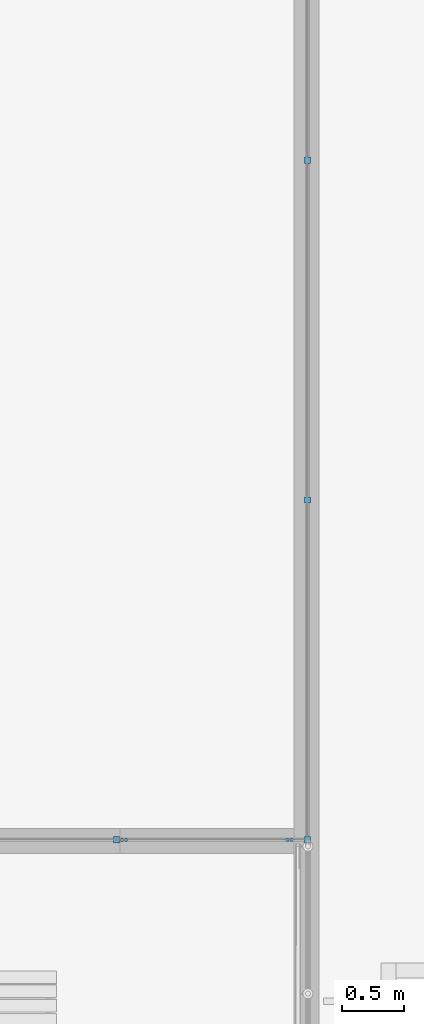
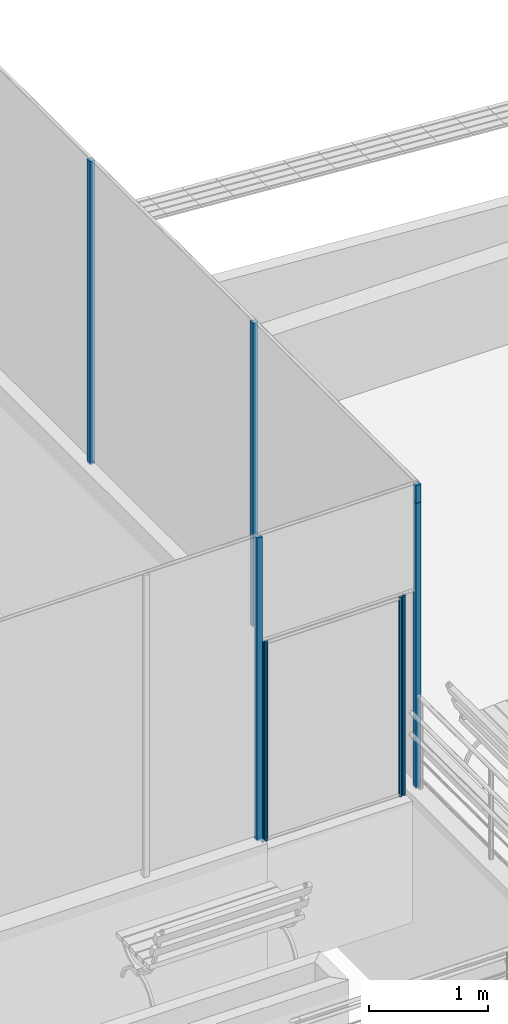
# One storey, part 7 of 237: 9 columns.
"""IFC2X3 building model written with IfcOpenShell, lengths in millimetres."""

import ifcopenshell
import ifcopenshell.guid

model = None  # the IFC model being written
_history = None  # IfcOwnerHistory: only IFC2X3 demands one
_inside = {}  # id of a spatial element -> (the spatial element, [elements in it])
_under = {}  # id of a project, library or spatial element -> (it, [spatial elements below it])
_declared = {}  # id of a project -> (the project, [libraries it declares])
_typed = {}  # id of a type object -> (the type object, [elements of that type])
_made_of = {}  # id of a material, layer set ... -> (it, [elements and type objects made of it])


def new_model(schema):
    """Start an empty IFC model of exactly this schema.

    Asked for "IFC4X3", IfcOpenShell would pick the latest addendum, in which some entities
    have other attributes; the version numbers below select the first issue.
    IFC2X3 requires an IfcOwnerHistory on every rooted entity: one is made here for all.
    """
    global model, _history
    if schema == "IFC4X3":
        model = ifcopenshell.file(schema_version=(4, 3, 0, 0))
    else:
        model = ifcopenshell.file(schema=schema)
    _inside.clear()
    _under.clear()
    _declared.clear()
    _typed.clear()
    _made_of.clear()
    _history = None
    if model.schema == "IFC2X3":
        org = make("IfcOrganization", Name="unknown")
        user = make(
            "IfcPersonAndOrganization",
            ThePerson=make("IfcPerson", FamilyName="unknown"),
            TheOrganization=org,
        )
        app = make(
            "IfcApplication",
            ApplicationDeveloper=org,
            Version="unknown",
            ApplicationFullName="unknown",
            ApplicationIdentifier="unknown",
        )
        _history = make(
            "IfcOwnerHistory",
            OwningUser=user,
            OwningApplication=app,
            ChangeAction="ADDED",
            CreationDate=0,
        )
    return model


def make(cls, **values):
    """One entity of the class cls with the attributes given. An attribute that is None is left unset."""
    return model.create_entity(
        cls, **{name: value for name, value in values.items() if value is not None}
    )


def entity(cls, *values):
    """Any entity or typed value of the class cls, its attributes in the order of the schema. None: left unset."""
    e = model.create_entity(cls)
    for i, value in enumerate(values):
        if value is not None:
            e[i] = value
    return e


def rooted(cls, **values):
    """An entity with a GlobalId (a new one), such as an element, a storey or a relation."""
    return make(cls, GlobalId=ifcopenshell.guid.new(), OwnerHistory=_history, **values)


def si_unit(unit_type, name, prefix=None):
    """IfcSIUnit, for example si_unit("LENGTHUNIT", "METRE", prefix="MILLI")."""
    return make("IfcSIUnit", UnitType=unit_type, Prefix=prefix, Name=name)


def converted_unit(unit_type, name, factor, base, dimensions=None, offset=None):
    """IfcConversionBasedUnit, such as the inch: factor (a typed value) times the base unit."""
    return make(
        "IfcConversionBasedUnit"
        if offset is None
        else "IfcConversionBasedUnitWithOffset",
        ConversionOffset=offset,
        Dimensions=None
        if dimensions is None
        else entity("IfcDimensionalExponents", *dimensions),
        UnitType=unit_type,
        Name=name,
        ConversionFactor=make(
            "IfcMeasureWithUnit", ValueComponent=factor, UnitComponent=base
        ),
    )


def derived_unit(unit_type, elements):
    """IfcDerivedUnit: a product of units, each with its exponent."""
    return make(
        "IfcDerivedUnit",
        Elements=[
            make("IfcDerivedUnitElement", Unit=unit, Exponent=power)
            for unit, power in elements
        ],
        UnitType=unit_type,
    )


def money_unit(currency):
    """IfcMonetaryUnit."""
    return make("IfcMonetaryUnit", Currency=currency)


def assignment(units):
    """IfcUnitAssignment: the units of a project."""
    return None if units is None else make("IfcUnitAssignment", Units=units)


def point(xyz):
    """IfcCartesianPoint."""
    return None if xyz is None else make("IfcCartesianPoint", Coordinates=xyz)


def direction(xyz):
    """IfcDirection."""
    return None if xyz is None else make("IfcDirection", DirectionRatios=xyz)


def frame(location, z_axis=None, x_axis=None):
    """IfcAxis2Placement3D, a coordinate frame: its origin and axes. An axis left out is left unset."""
    return make(
        "IfcAxis2Placement3D",
        Location=point(location),
        Axis=direction(z_axis),
        RefDirection=direction(x_axis),
    )


def frame_2d(location, x_axis=None):
    """IfcAxis2Placement2D, a coordinate frame in the plane: its origin and x axis."""
    return make(
        "IfcAxis2Placement2D", Location=point(location), RefDirection=direction(x_axis)
    )


def origin_with_axes():
    """The frame at (0, 0, 0) with the z axis (0, 0, 1) and the x axis (1, 0, 0) written out."""
    return frame((0.0, 0.0, 0.0), z_axis=(0.0, 0.0, 1.0), x_axis=(1.0, 0.0, 0.0))


def origin_2d_with_axis():
    """The frame at (0, 0) in the plane with the x axis (1, 0) written out."""
    return frame_2d((0.0, 0.0), x_axis=(1.0, 0.0))


def place(relative_to, where):
    """IfcLocalPlacement: puts the frame where relative to a parent placement (None: the world)."""
    return make(
        "IfcLocalPlacement", PlacementRelTo=relative_to, RelativePlacement=where
    )


def context(
    kind, dimensions, precision=None, world=None, true_north=None, identifier=None
):
    """IfcGeometricRepresentationContext, for example the 3D "Model" context."""
    return make(
        "IfcGeometricRepresentationContext",
        ContextIdentifier=identifier,
        ContextType=kind,
        CoordinateSpaceDimension=dimensions,
        Precision=precision,
        WorldCoordinateSystem=world,
        TrueNorth=true_north,
    )


def subcontext(parent, identifier, kind, view, scale=None):
    """IfcGeometricRepresentationSubContext, for example "Body" below "Model"."""
    return make(
        "IfcGeometricRepresentationSubContext",
        ContextIdentifier=identifier,
        ContextType=kind,
        ParentContext=parent,
        TargetScale=scale,
        TargetView=view,
    )


def project(units=None, contexts=None):
    """IfcProject with its units and contexts."""
    return rooted(
        "IfcProject",
        Name="project",
        RepresentationContexts=contexts,
        UnitsInContext=assignment(units),
    )


def spatial(cls, under=None, at=None, **own):
    """A site, building, storey or space (cls), placed at a placement, below another one or the project."""
    s = rooted(cls, ObjectPlacement=at, **own)
    if under is not None:
        _under.setdefault(under.id(), (under, []))[1].append(s)
    return s


def profile(cls, at=None, kind="AREA", **sizes):
    """A parametric profile (cls). Its sizes go by their IFC names, for example OverallWidth=200.0."""
    return make(cls, ProfileType=kind, Position=at, **sizes)


def rectangle(**sizes):
    """IfcRectangleProfileDef."""
    return profile("IfcRectangleProfileDef", **sizes)


def circle(**sizes):
    """IfcCircleProfileDef."""
    return profile("IfcCircleProfileDef", **sizes)


def extrude(swept, where, along, depth):
    """IfcExtrudedAreaSolid: the profile swept, set in the frame where, extruded along a direction by depth."""
    return make(
        "IfcExtrudedAreaSolid",
        SweptArea=swept,
        Position=where,
        ExtrudedDirection=direction(along),
        Depth=depth,
    )


def shape(context_of_items, identifier, shape_type, items):
    """IfcShapeRepresentation: the items that make up one representation, for example the "Body"."""
    return make(
        "IfcShapeRepresentation",
        ContextOfItems=context_of_items,
        RepresentationIdentifier=identifier,
        RepresentationType=shape_type,
        Items=items,
    )


def material(Name=None, Category=None):
    """IfcMaterial."""
    return make("IfcMaterial", Name=Name, Category=Category)


def made_of(thing, what):
    """Note that an element or type object is made of a material, layer set ...; save() writes the relation."""
    if what is not None:
        _made_of.setdefault(what.id(), (what, []))[1].append(thing)
    return thing


def type_object(cls, material=None, **own):
    """A type object (cls), such as IfcWallType, which elements share."""
    return made_of(rooted(cls, **own), material)


def element(
    cls,
    number,
    at=None,
    inside=None,
    cuts=None,
    type_object=None,
    material=None,
    context=None,
    identifier="Body",
    shape_type=None,
    held_by="IfcProductDefinitionShape",
    body=None,
    shapes=None,
    **own,
):
    """One element of the class cls, such as IfcWall. Its Tag is "e" and its number.

    at: its placement. inside: the storey or other place that contains it. cuts: it is an
    opening in that element (IfcRelVoidsElement). A single representation is given by context,
    identifier, shape_type and body (its items); several are given by shapes. held_by: the class
    of the entity that holds the representations. save() writes the other relations.
    """
    e = rooted(cls, Tag="e%d" % number, ObjectPlacement=at, **own)
    if body is not None:
        shapes = [shape(context, identifier, shape_type, body)]
    if shapes is not None:
        e.Representation = make(held_by, Representations=shapes)
    if inside is not None:
        _inside.setdefault(inside.id(), (inside, []))[1].append(e)
    if cuts is not None:
        rooted(
            "IfcRelVoidsElement", RelatingBuildingElement=cuts, RelatedOpeningElement=e
        )
    if type_object is not None:
        _typed.setdefault(type_object.id(), (type_object, []))[1].append(e)
    return made_of(e, material)


def aggregate(whole, parts):
    """IfcRelAggregates: a whole, such as a stair, and the parts it consists of."""
    return rooted("IfcRelAggregates", RelatingObject=whole, RelatedObjects=parts)


def save(model, path):
    """Write the relations noted so far, then the file.

    IfcRelAggregates (storeys below a building ...), IfcRelContainedInSpatialStructure (elements
    in a storey), IfcRelDefinesByType, IfcRelAssociatesMaterial and IfcRelDeclares: one each for
    every whole, place, type object, material and project.
    """
    for whole, parts in _under.values():
        aggregate(whole, parts)
    for where, things in _inside.values():
        rooted(
            "IfcRelContainedInSpatialStructure",
            RelatedElements=things,
            RelatingStructure=where,
        )
    for kind, things in _typed.values():
        rooted("IfcRelDefinesByType", RelatedObjects=things, RelatingType=kind)
    for what, things in _made_of.values():
        rooted("IfcRelAssociatesMaterial", RelatedObjects=things, RelatingMaterial=what)
    for by, libraries in _declared.values():
        rooted("IfcRelDeclares", RelatingContext=by, RelatedDefinitions=libraries)
    model.write(path)


model = new_model("IFC2X3")

# Units and contexts
model_context = context("Model", 3, precision=0.01, world=origin_with_axes(), true_north=direction((0.0, 1.0)))
body_context = subcontext(model_context, "Body", "Model", "MODEL_VIEW")
ifc_project = project(units=[si_unit("LENGTHUNIT", "METRE", prefix="MILLI"), si_unit("AREAUNIT", "SQUARE_METRE"), si_unit("VOLUMEUNIT", "CUBIC_METRE"), converted_unit("PLANEANGLEUNIT", "DEGREE", entity("IfcPlaneAngleMeasure", 0.0174532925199), si_unit("PLANEANGLEUNIT", "RADIAN"), dimensions=[0, 0, 0, 0, 0, 0, 0]), money_unit("USD"), converted_unit("TIMEUNIT", "Year", entity("IfcTimeMeasure", 31556926.0), si_unit("TIMEUNIT", "SECOND"), dimensions=[0, 0, 1, 0, 0, 0, 0]), si_unit("MASSUNIT", "GRAM", prefix="KILO"), si_unit("THERMODYNAMICTEMPERATUREUNIT", "DEGREE_CELSIUS"), si_unit("LUMINOUSINTENSITYUNIT", "LUMEN"), si_unit("ENERGYUNIT", "JOULE", prefix="MEGA"), derived_unit("THERMALCONDUCTANCEUNIT", [(si_unit("POWERUNIT", "WATT"), 1), (si_unit("LENGTHUNIT", "METRE"), -1), (si_unit("THERMODYNAMICTEMPERATUREUNIT", "KELVIN"), -1)]), derived_unit("SPECIFICHEATCAPACITYUNIT", [(si_unit("ENERGYUNIT", "JOULE"), 1), (si_unit("MASSUNIT", "GRAM", prefix="KILO"), -1), (si_unit("THERMODYNAMICTEMPERATUREUNIT", "KELVIN"), -1)]), derived_unit("MASSDENSITYUNIT", [(si_unit("MASSUNIT", "GRAM", prefix="KILO"), 1), (si_unit("VOLUMEUNIT", "CUBIC_METRE"), -1)])], contexts=[model_context])

# Site, building, storey
site_placement = place(None, origin_with_axes())
site = spatial("IfcSite", under=ifc_project, at=site_placement, Name="Local", CompositionType="ELEMENT")
building_placement = place(site_placement, origin_with_axes())
building = spatial("IfcBuilding", under=site, at=building_placement, Name="Construção", CompositionType="ELEMENT")
storey_placement = place(building_placement, origin_with_axes())
storey = spatial("IfcBuildingStorey", under=building, at=storey_placement, Name="Pavimento Térreo", CompositionType="ELEMENT", Elevation=0.0)

# Columns
ifc_material = material(Name="Alumínio")
column_type_1 = type_object("IfcColumnType", Name="Alumínio 50 x 50", PredefinedType="NOTDEFINED")
column_1_placement = place(storey_placement, frame((86670.2856781, 32762.3554417, -3427.40377037), z_axis=(0.0, 0.0, 1.0), x_axis=(1.0, 0.0, 0.0)))
element("IfcColumn", 1, at=column_1_placement, inside=storey, type_object=column_type_1, material=ifc_material, Name="Pil-016", context=body_context, shape_type="SweptSolid", body=[
    extrude(rectangle(XDim=50.0, YDim=50.0, at=origin_2d_with_axis()), origin_with_axes(), (0.0, 0.0, 1.0), 3100.0),
])
column_2_placement = place(storey_placement, frame((85135.6178825, 27302.1284846, -3427.40377037), z_axis=(0.0, 0.0, 1.0), x_axis=(1.0, 0.0, 0.0)))
element("IfcColumn", 2, at=column_2_placement, inside=storey, type_object=column_type_1, material=ifc_material, Name="Pil-016", context=body_context, shape_type="SweptSolid", body=[
    extrude(rectangle(XDim=50.0, YDim=50.0, at=origin_2d_with_axis()), origin_with_axes(), (0.0, 0.0, 1.0), 3100.19325861),
])
column_3_placement = place(storey_placement, frame((86670.2856781, 30032.2419632, -3427.40377037), z_axis=(0.0, 0.0, 1.0), x_axis=(1.0, 0.0, 0.0)))
element("IfcColumn", 3, at=column_3_placement, inside=storey, type_object=column_type_1, material=ifc_material, Name="Pil-016", context=body_context, shape_type="SweptSolid", body=[
    extrude(rectangle(XDim=50.0, YDim=50.0, at=origin_2d_with_axis()), origin_with_axes(), (0.0, 0.0, 1.0), 3100.0),
])
column_4_placement = place(storey_placement, frame((86670.2856781, 27302.1284846, -3427.40377037), z_axis=(0.0, 0.0, 1.0), x_axis=(1.0, 0.0, 0.0)))
element("IfcColumn", 4, at=column_4_placement, inside=storey, type_object=column_type_1, material=ifc_material, Name="Pil-016", context=body_context, shape_type="SweptSolid", body=[
    extrude(rectangle(XDim=50.0, YDim=50.0, at=origin_2d_with_axis()), origin_with_axes(), (0.0, 0.0, 1.0), 2917.40377037),
])
column_5_placement = place(storey_placement, frame((86670.2856781, 27302.1284846, -3427.40377037), z_axis=(0.0, 0.0, 1.0), x_axis=(1.0, 0.0, 0.0)))
element("IfcColumn", 5, at=column_5_placement, inside=storey, type_object=column_type_1, material=ifc_material, Name="Pil-016", context=body_context, shape_type="SweptSolid", body=[
    extrude(rectangle(XDim=50.0, YDim=50.0, at=origin_2d_with_axis()), origin_with_axes(), (0.0, 0.0, 1.0), 3100.0),
])
column_type_2 = type_object("IfcColumnType", Name="Alumínio D30", PredefinedType="NOTDEFINED")
column_6_placement = place(storey_placement, frame((86508.6896945, 27302.1284846, -3465.52066745), z_axis=(0.0, 0.0, 1.0), x_axis=(1.0, 0.0, 0.0)))
element("IfcColumn", 6, at=column_6_placement, inside=storey, type_object=column_type_2, material=ifc_material, Name="Pil-016", context=body_context, shape_type="SweptSolid", body=[
    extrude(circle(Radius=15.0, at=origin_2d_with_axis()), origin_with_axes(), (0.0, 0.0, 1.0), 2037.67834179),
])
column_7_placement = place(storey_placement, frame((85211.6975292, 27302.1284846, -3465.52066745), z_axis=(0.0, 0.0, 1.0), x_axis=(1.0, 0.0, 0.0)))
element("IfcColumn", 7, at=column_7_placement, inside=storey, type_object=column_type_2, material=ifc_material, Name="Pil-016", context=body_context, shape_type="SweptSolid", body=[
    extrude(circle(Radius=15.0, at=origin_2d_with_axis()), origin_with_axes(), (0.0, 0.0, 1.0), 2037.67834315),
])
column_8_placement = place(storey_placement, frame((85177.9116683, 27302.1284846, -3468.89452735), z_axis=(0.0, 0.0, 1.0), x_axis=(1.0, 0.0, 0.0)))
element("IfcColumn", 8, at=column_8_placement, inside=storey, type_object=column_type_2, material=ifc_material, Name="Pil-016", context=body_context, shape_type="SweptSolid", body=[
    extrude(circle(Radius=15.0, at=origin_2d_with_axis()), origin_with_axes(), (0.0, 0.0, 1.0), 2050.04143552),
])
column_9_placement = place(storey_placement, frame((86542.7614307, 27302.1284846, -3465.55389455), z_axis=(0.0, 0.0, 1.0), x_axis=(1.0, 0.0, 0.0)))
element("IfcColumn", 9, at=column_9_placement, inside=storey, type_object=column_type_2, material=ifc_material, Name="Pil-016", context=body_context, shape_type="SweptSolid", body=[
    extrude(circle(Radius=15.0, at=origin_2d_with_axis()), origin_with_axes(), (0.0, 0.0, 1.0), 2046.70080272),
])

save(model, "model.ifc")
